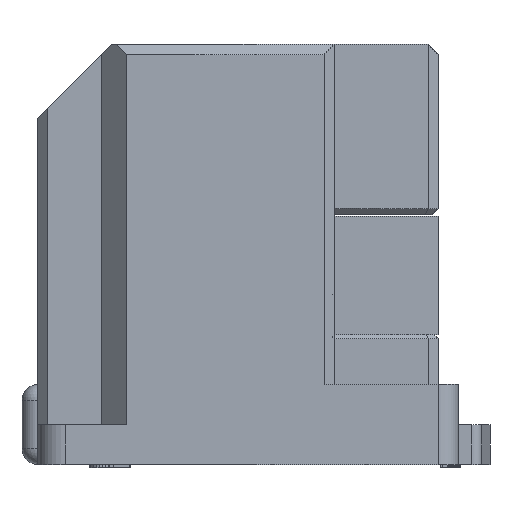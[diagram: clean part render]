
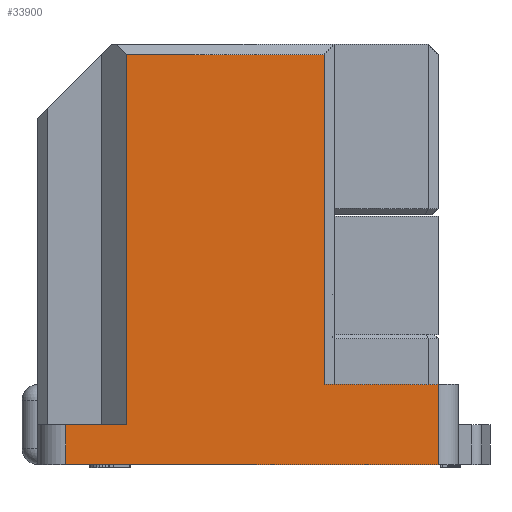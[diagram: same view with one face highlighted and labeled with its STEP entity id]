
A CAD part, left-side view. The second image highlights one B-rep face of the part: STEP entity #33900.
In plain terms, the highlighted planar face has unit normal (-1, 0, 0).
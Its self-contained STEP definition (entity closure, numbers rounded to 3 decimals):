
#9125=DIRECTION('',(0.,1.,0.));
#9126=VECTOR('',#9125,5.7);
#9127=CARTESIAN_POINT('',(-19.45,-8.4,-17.));
#9128=LINE('',#9127,#9126);
#9401=DIRECTION('',(0.,0.,-1.));
#9402=VECTOR('',#9401,18.5);
#9403=CARTESIAN_POINT('',(-19.45,7.15,-0.5));
#9404=LINE('',#9403,#9402);
#9421=DIRECTION('',(0.,0.,-1.));
#9422=VECTOR('',#9421,16.5);
#9423=CARTESIAN_POINT('',(-19.45,-2.7,-0.5));
#9424=LINE('',#9423,#9422);
#9425=DIRECTION('',(0.,0.,1.));
#9426=VECTOR('',#9425,4.);
#9427=CARTESIAN_POINT('',(-19.45,-8.4,-21.));
#9428=LINE('',#9427,#9426);
#9429=DIRECTION('',(0.,1.,0.));
#9430=VECTOR('',#9429,18.6);
#9431=CARTESIAN_POINT('',(-19.45,-8.4,-21.));
#9432=LINE('',#9431,#9430);
#9433=DIRECTION('',(0.,-1.,0.));
#9434=VECTOR('',#9433,3.05);
#9435=CARTESIAN_POINT('',(-19.45,10.2,-19.));
#9436=LINE('',#9435,#9434);
#9437=DIRECTION('',(0.,-1.,0.));
#9438=VECTOR('',#9437,9.85);
#9439=CARTESIAN_POINT('',(-19.45,7.15,-0.5));
#9440=LINE('',#9439,#9438);
#11303=DIRECTION('',(0.,0.,-1.));
#11304=VECTOR('',#11303,2.);
#11305=CARTESIAN_POINT('',(-19.45,10.2,-19.));
#11306=LINE('',#11305,#11304);
#16756=CARTESIAN_POINT('',(-19.45,10.2,-21.));
#16758=VERTEX_POINT('',#16756);
#16836=CARTESIAN_POINT('',(-19.45,10.2,-19.));
#16837=CARTESIAN_POINT('',(-19.45,7.15,-19.));
#16838=VERTEX_POINT('',#16836);
#16839=VERTEX_POINT('',#16837);
#19350=CARTESIAN_POINT('',(-19.45,-8.4,-21.));
#19351=VERTEX_POINT('',#19350);
#19352=CARTESIAN_POINT('',(-19.45,-8.4,-17.));
#19353=VERTEX_POINT('',#19352);
#21238=CARTESIAN_POINT('',(-19.45,-2.7,-0.5));
#21239=CARTESIAN_POINT('',(-19.45,-2.7,-17.));
#21240=VERTEX_POINT('',#21238);
#21241=VERTEX_POINT('',#21239);
#21688=CARTESIAN_POINT('',(-19.45,7.15,-0.5));
#21690=VERTEX_POINT('',#21688);
#33883=CARTESIAN_POINT('',(-19.45,7.15,0.));
#33884=DIRECTION('',(-1.,0.,0.));
#33885=DIRECTION('',(0.,-1.,0.));
#33886=AXIS2_PLACEMENT_3D('',#33883,#33884,#33885);
#33887=PLANE('',#33886);
#33888=ORIENTED_EDGE('',*,*,#33874,.T.);
#33889=ORIENTED_EDGE('',*,*,#33385,.F.);
#33891=ORIENTED_EDGE('',*,*,#33890,.F.);
#33892=ORIENTED_EDGE('',*,*,#31461,.T.);
#33894=ORIENTED_EDGE('',*,*,#33893,.F.);
#33895=ORIENTED_EDGE('',*,*,#33759,.T.);
#33896=ORIENTED_EDGE('',*,*,#33846,.F.);
#33897=ORIENTED_EDGE('',*,*,#33864,.T.);
#33898=EDGE_LOOP('',(#33888,#33889,#33891,#33892,#33894,#33895,#33896,#33897));
#33899=FACE_OUTER_BOUND('',#33898,.F.);
#33900=ADVANCED_FACE('',(#33899),#33887,.T.);
#31461=EDGE_CURVE('',#19351,#16758,#9432,.T.);
#33385=EDGE_CURVE('',#19353,#21241,#9128,.T.);
#33759=EDGE_CURVE('',#16838,#16839,#9436,.T.);
#33846=EDGE_CURVE('',#21690,#16839,#9404,.T.);
#33864=EDGE_CURVE('',#21690,#21240,#9440,.T.);
#33874=EDGE_CURVE('',#21240,#21241,#9424,.T.);
#33890=EDGE_CURVE('',#19351,#19353,#9428,.T.);
#33893=EDGE_CURVE('',#16838,#16758,#11306,.T.);
